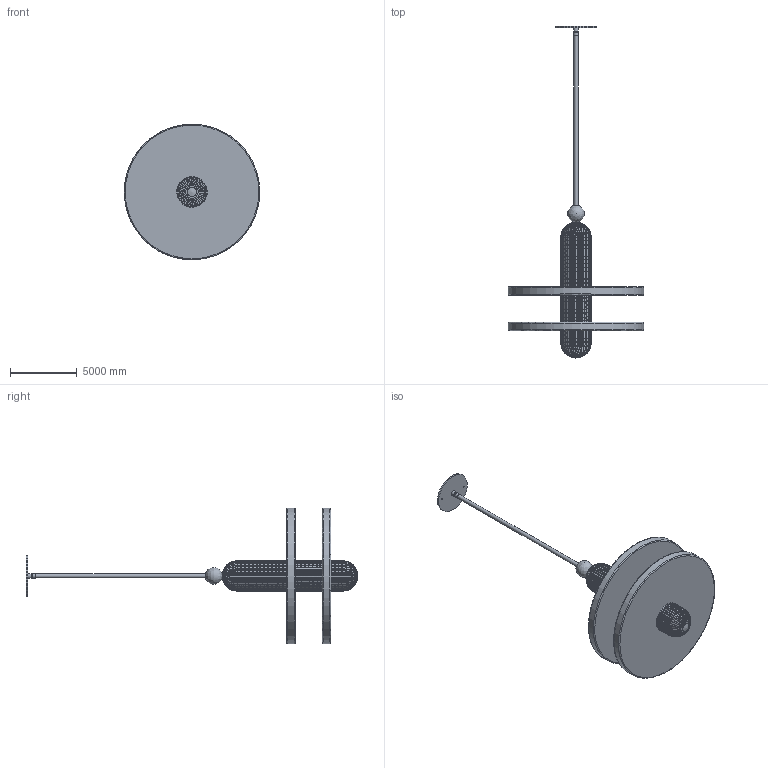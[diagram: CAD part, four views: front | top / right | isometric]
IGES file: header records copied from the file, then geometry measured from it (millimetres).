
Global section: file name: Alabaster Comet Pendant Lamp-D15.7″,4; native system: 8HAutoCAD 2022 - 简体中文 (Simplified Chinese); preprocessor: Autodesk Translation Framework DWG producer (atf_dwg_producer); organization: unknown; date: 20250618.171654; units: inch
Bounding box: 10160 x 24879.3 x 10151.66 mm (x, y, z)
Volume: 138335935824.4 mm3; surface area: 538199960.7 mm2
Topology: 12 solids, 14 shells, 386 faces, 932 edges, 741 vertices
Faces by surface type: bspline 386
